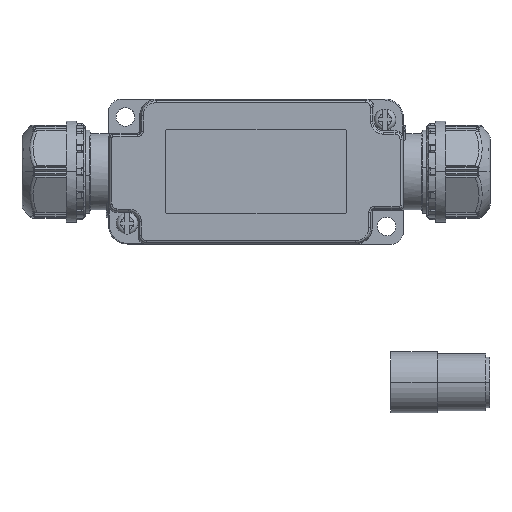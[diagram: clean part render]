
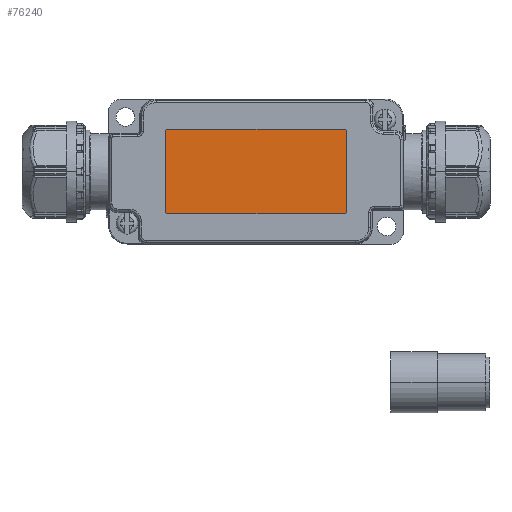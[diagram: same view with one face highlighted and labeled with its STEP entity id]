
A CAD part, top view. The second image highlights one B-rep face of the part: STEP entity #76240.
In plain terms, the highlighted planar face has unit normal (0, 0, 1).
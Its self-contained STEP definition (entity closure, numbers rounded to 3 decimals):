
#38280=CARTESIAN_POINT('',(63.43,35.33,22.7));
#38290=VERTEX_POINT('',#38280);
#38340=CARTESIAN_POINT('',(63.43,35.83,22.7));
#38350=DIRECTION('',(0.,0.,1.));
#38360=DIRECTION('',(-1.,0.,0.));
#38370=AXIS2_PLACEMENT_3D('',#38340,#38350,#38360);
#38380=CIRCLE('',#38370,0.5);
#38390=CARTESIAN_POINT('',(63.93,35.83,22.7));
#38400=VERTEX_POINT('',#38390);
#38410=EDGE_CURVE('',#38290,#38400,#38380,.T.);
#38670=CARTESIAN_POINT('',(63.93,55.33,22.7));
#38680=DIRECTION('',(0.,-1.,0.));
#38690=VECTOR('',#38680,1.);
#38700=LINE('',#38670,#38690);
#38710=CARTESIAN_POINT('',(63.93,54.83,22.7));
#38720=VERTEX_POINT('',#38710);
#38730=EDGE_CURVE('',#38720,#38400,#38700,.T.);
#38980=CARTESIAN_POINT('',(63.43,54.83,22.7));
#38990=DIRECTION('',(0.,0.,1.));
#39000=DIRECTION('',(-1.,0.,0.));
#39010=AXIS2_PLACEMENT_3D('',#38980,#38990,#39000);
#39020=CIRCLE('',#39010,0.5);
#39030=CARTESIAN_POINT('',(63.43,55.33,22.7));
#39040=VERTEX_POINT('',#39030);
#39050=EDGE_CURVE('',#38720,#39040,#39020,.T.);
#73390=CARTESIAN_POINT('',(24.43,55.33,22.7));
#73400=DIRECTION('',(1.,0.,0.));
#73410=VECTOR('',#73400,1.);
#73420=LINE('',#73390,#73410);
#73430=CARTESIAN_POINT('',(21.43,55.33,22.7));
#73440=VERTEX_POINT('',#73430);
#73450=EDGE_CURVE('',#73440,#39040,#73420,.T.);
#73730=CARTESIAN_POINT('',(20.93,35.83,22.7));
#73740=VERTEX_POINT('',#73730);
#73790=CARTESIAN_POINT('',(21.43,35.83,22.7));
#73800=DIRECTION('',(0.,0.,1.));
#73810=DIRECTION('',(1.,0.,0.));
#73820=AXIS2_PLACEMENT_3D('',#73790,#73800,#73810);
#73830=CIRCLE('',#73820,0.5);
#73840=CARTESIAN_POINT('',(21.43,35.33,22.7));
#73850=VERTEX_POINT('',#73840);
#73860=EDGE_CURVE('',#73740,#73850,#73830,.T.);
#75910=CARTESIAN_POINT('',(46.18,45.33,22.7));
#75920=DIRECTION('',(0.,0.,1.));
#75930=DIRECTION('',(1.,0.,0.));
#75940=AXIS2_PLACEMENT_3D('',#75910,#75920,#75930);
#75950=PLANE('',#75940);
#75960=ORIENTED_EDGE('',*,*,#73860,.T.);
#75970=CARTESIAN_POINT('',(20.93,35.33,22.7));
#75980=DIRECTION('',(0.,1.,0.));
#75990=VECTOR('',#75980,1.);
#76000=LINE('',#75970,#75990);
#76010=CARTESIAN_POINT('',(20.93,54.83,22.7));
#76020=VERTEX_POINT('',#76010);
#76030=EDGE_CURVE('',#73740,#76020,#76000,.T.);
#76040=ORIENTED_EDGE('',*,*,#76030,.F.);
#76050=CARTESIAN_POINT('',(21.43,54.83,22.7));
#76060=DIRECTION('',(0.,0.,1.));
#76070=DIRECTION('',(0.,1.,0.));
#76080=AXIS2_PLACEMENT_3D('',#76050,#76060,#76070);
#76090=CIRCLE('',#76080,0.5);
#76100=EDGE_CURVE('',#73440,#76020,#76090,.T.);
#76110=ORIENTED_EDGE('',*,*,#76100,.T.);
#76120=ORIENTED_EDGE('',*,*,#73450,.F.);
#76130=ORIENTED_EDGE('',*,*,#39050,.T.);
#76140=ORIENTED_EDGE('',*,*,#38730,.F.);
#76150=ORIENTED_EDGE('',*,*,#38410,.T.);
#76160=CARTESIAN_POINT('',(60.43,35.33,22.7));
#76170=DIRECTION('',(-1.,0.,0.));
#76180=VECTOR('',#76170,1.);
#76190=LINE('',#76160,#76180);
#76200=EDGE_CURVE('',#38290,#73850,#76190,.T.);
#76210=ORIENTED_EDGE('',*,*,#76200,.F.);
#76220=EDGE_LOOP('',(#76210,#76150,#76140,#76130,#76120,#76110,#76040,
#75960));
#76230=FACE_OUTER_BOUND('',#76220,.T.);
#76240=ADVANCED_FACE('',(#76230),#75950,.T.);
